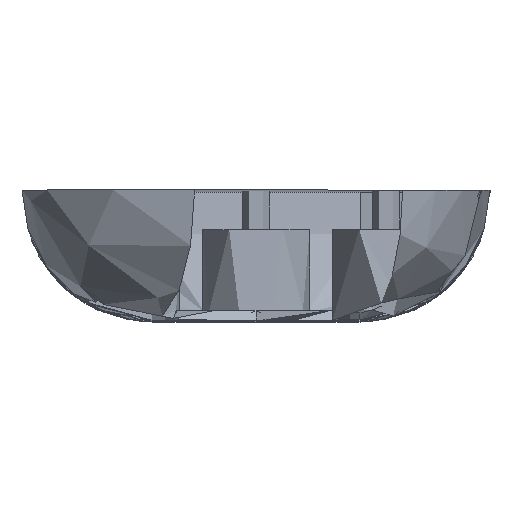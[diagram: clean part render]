
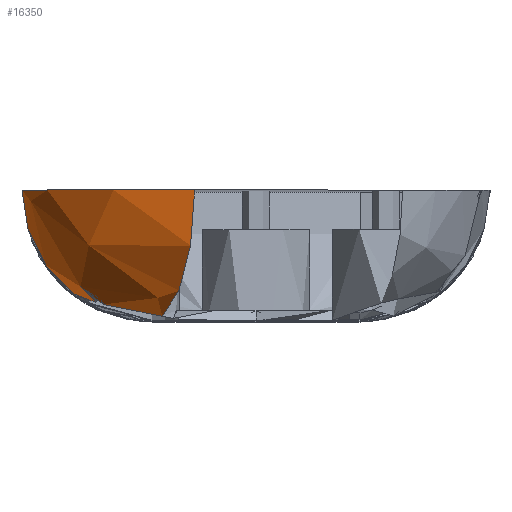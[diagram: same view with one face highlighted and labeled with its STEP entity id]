
A CAD part, top view. The second image highlights one B-rep face of the part: STEP entity #16350.
In plain terms, the highlighted spherical face has radius 20 mm.
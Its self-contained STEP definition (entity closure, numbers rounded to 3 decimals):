
#333=CARTESIAN_POINT('',(107.,-776.,99.693));
#334=DIRECTION('',(0.,1.,0.));
#335=DIRECTION('',(-1.,0.,0.));
#336=AXIS2_PLACEMENT_3D('',#333,#334,#335);
#3606=CARTESIAN_POINT('',(108.571,-795.418,104.218));
#3607=CARTESIAN_POINT('',(108.102,-795.356,104.648));
#3608=CARTESIAN_POINT('',(107.061,-795.201,105.4));
#3609=CARTESIAN_POINT('',(105.273,-794.887,106.143));
#3610=CARTESIAN_POINT('',(103.346,-794.501,106.453));
#3611=CARTESIAN_POINT('',(101.394,-794.061,106.304));
#3612=CARTESIAN_POINT('',(100.147,-793.747,105.902));
#3613=CARTESIAN_POINT('',(99.554,-793.587,105.629));
#3657=CARTESIAN_POINT('',(98.254,-793.222,104.882));
#3658=CARTESIAN_POINT('',(97.818,-793.093,104.575));
#3659=CARTESIAN_POINT('',(97.008,-792.838,103.879));
#3660=CARTESIAN_POINT('',(96.018,-792.484,102.624));
#3661=CARTESIAN_POINT('',(95.292,-792.17,101.213));
#3662=CARTESIAN_POINT('',(94.997,-791.998,100.205));
#3663=CARTESIAN_POINT('',(94.899,-791.924,99.693));
#3677=CARTESIAN_POINT('',(96.015,-790.884,107.296));
#3678=CARTESIAN_POINT('',(96.382,-791.244,107.121));
#3679=CARTESIAN_POINT('',(97.109,-791.9,106.778));
#3680=CARTESIAN_POINT('',(98.305,-792.814,106.215));
#3681=CARTESIAN_POINT('',(99.118,-793.334,105.833));
#3682=CARTESIAN_POINT('',(99.554,-793.587,105.629));
#3684=CARTESIAN_POINT('',(98.254,-793.222,104.882));
#3685=CARTESIAN_POINT('',(97.946,-792.984,105.154));
#3686=CARTESIAN_POINT('',(97.391,-792.509,105.671));
#3687=CARTESIAN_POINT('',(96.634,-791.718,106.482));
#3688=CARTESIAN_POINT('',(96.211,-791.17,107.018));
#3689=CARTESIAN_POINT('',(96.015,-790.884,107.296));
#3691=CARTESIAN_POINT('',(107.,-776.,99.693));
#3692=DIRECTION('',(0.,0.,1.));
#3693=DIRECTION('',(-1.,0.,0.));
#3694=AXIS2_PLACEMENT_3D('',#3691,#3692,#3693);
#3696=CARTESIAN_POINT('',(107.,-776.,99.693));
#3697=DIRECTION('',(-0.945,0.,0.328));
#3698=DIRECTION('',(0.079,-0.971,0.226));
#3699=AXIS2_PLACEMENT_3D('',#3696,#3697,#3698);
#8335=CARTESIAN_POINT('',(87.,-776.,99.693));
#8336=CARTESIAN_POINT('',(94.899,-791.924,99.693));
#8337=VERTEX_POINT('',#8335);
#8338=VERTEX_POINT('',#8336);
#8670=CARTESIAN_POINT('',(113.56,-776.,118.587));
#8671=VERTEX_POINT('',#8670);
#8824=VERTEX_POINT('',#3677);
#8825=VERTEX_POINT('',#3682);
#8826=CARTESIAN_POINT('',(108.571,-795.418,104.218));
#8827=VERTEX_POINT('',#8826);
#8828=VERTEX_POINT('',#3684);
#16335=CARTESIAN_POINT('',(107.,-776.,99.693));
#16336=DIRECTION('',(-0.605,-0.796,0.));
#16337=DIRECTION('',(-0.796,0.605,0.));
#16338=AXIS2_PLACEMENT_3D('',#16335,#16336,#16337);
#16339=SPHERICAL_SURFACE('',#16338,20.);
#16340=ORIENTED_EDGE('',*,*,#16327,.F.);
#16342=ORIENTED_EDGE('',*,*,#16341,.F.);
#16343=ORIENTED_EDGE('',*,*,#16295,.T.);
#16344=ORIENTED_EDGE('',*,*,#16270,.F.);
#16345=ORIENTED_EDGE('',*,*,#10114,.T.);
#16346=ORIENTED_EDGE('',*,*,#10611,.F.);
#16347=ORIENTED_EDGE('',*,*,#16282,.T.);
#16348=EDGE_LOOP('',(#16340,#16342,#16343,#16344,#16345,#16346,#16347));
#16349=FACE_OUTER_BOUND('',#16348,.F.);
#16350=ADVANCED_FACE('',(#16349),#16339,.T.);
#337=CIRCLE('',#336,20.);
#3614=B_SPLINE_CURVE_WITH_KNOTS('',3,(#3606,#3607,#3608,#3609,#3610,#3611,#3612,
#3613),.UNSPECIFIED.,.F.,.F.,(4,1,1,1,1,4),(0.,0.2,0.4,0.6,0.8,1.),
.UNSPECIFIED.);
#3664=B_SPLINE_CURVE_WITH_KNOTS('',3,(#3657,#3658,#3659,#3660,#3661,#3662,
#3663),.UNSPECIFIED.,.F.,.F.,(4,1,1,1,4),(0.,0.25,0.5,0.75,1.),
.UNSPECIFIED.);
#3683=B_SPLINE_CURVE_WITH_KNOTS('',3,(#3677,#3678,#3679,#3680,#3681,#3682),
.UNSPECIFIED.,.F.,.F.,(4,1,1,4),(0.,0.333,0.667,1.),
.UNSPECIFIED.);
#3690=B_SPLINE_CURVE_WITH_KNOTS('',3,(#3684,#3685,#3686,#3687,#3688,#3689),
.UNSPECIFIED.,.F.,.F.,(4,1,1,4),(0.,0.333,0.667,1.),
.UNSPECIFIED.);
#3695=CIRCLE('',#3694,20.);
#3700=CIRCLE('',#3699,20.);
#10114=EDGE_CURVE('',#8337,#8671,#337,.T.);
#10611=EDGE_CURVE('',#8827,#8671,#3700,.T.);
#16270=EDGE_CURVE('',#8337,#8338,#3695,.T.);
#16282=EDGE_CURVE('',#8827,#8825,#3614,.T.);
#16295=EDGE_CURVE('',#8828,#8338,#3664,.T.);
#16327=EDGE_CURVE('',#8824,#8825,#3683,.T.);
#16341=EDGE_CURVE('',#8828,#8824,#3690,.T.);
